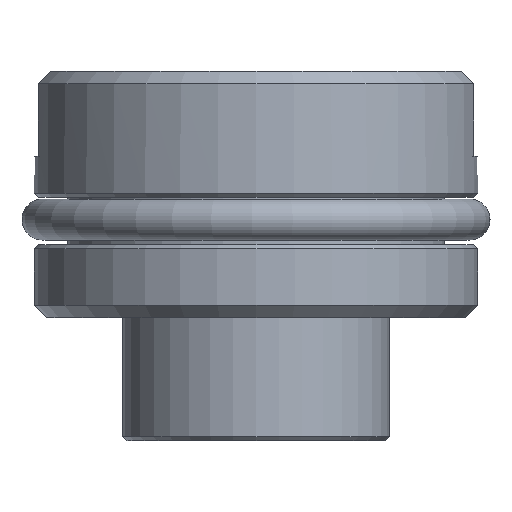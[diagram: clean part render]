
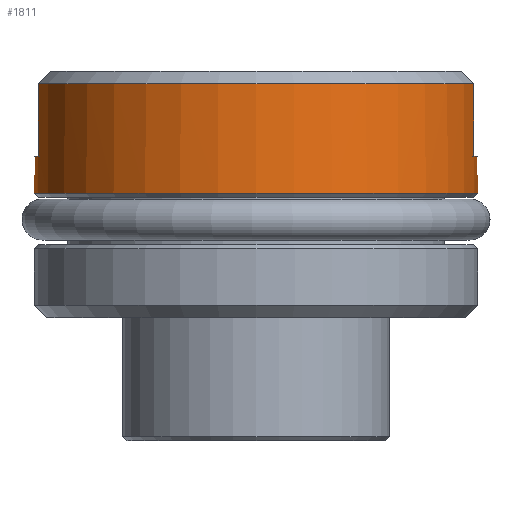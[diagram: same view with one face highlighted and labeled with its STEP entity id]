
A CAD part, left-side view. The second image highlights one B-rep face of the part: STEP entity #1811.
In plain terms, the highlighted cylindrical face has radius 5.4 mm (diameter 10.8 mm), a full revolution.
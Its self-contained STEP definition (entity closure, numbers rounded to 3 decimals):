
#77=CYLINDRICAL_SURFACE('',#1953,5.4);
#97=CIRCLE('',#1947,5.4);
#99=CIRCLE('',#1950,5.4);
#101=CIRCLE('',#1954,5.4);
#102=CIRCLE('',#1955,5.4);
#103=CIRCLE('',#1956,5.4);
#104=CIRCLE('',#1957,5.4);
#227=FACE_OUTER_BOUND('',#335,.T.);
#335=EDGE_LOOP('',(#1153,#1154,#1155,#1156,#1157,#1158,#1159,#1160,#1161,
#1162,#1163,#1164));
#485=LINE('',#2749,#589);
#489=LINE('',#2766,#593);
#493=LINE('',#2783,#597);
#498=LINE('',#2808,#602);
#501=LINE('',#2824,#605);
#589=VECTOR('',#2179,10.);
#593=VECTOR('',#2185,10.);
#597=VECTOR('',#2191,10.);
#602=VECTOR('',#2210,10.);
#605=VECTOR('',#2217,5.4);
#693=VERTEX_POINT('',#2747);
#694=VERTEX_POINT('',#2748);
#699=VERTEX_POINT('',#2764);
#700=VERTEX_POINT('',#2765);
#705=VERTEX_POINT('',#2781);
#706=VERTEX_POINT('',#2782);
#711=VERTEX_POINT('',#2801);
#713=VERTEX_POINT('',#2807);
#717=VERTEX_POINT('',#2821);
#718=VERTEX_POINT('',#2823);
#861=EDGE_CURVE('',#693,#694,#485,.T.);
#867=EDGE_CURVE('',#699,#700,#489,.T.);
#873=EDGE_CURVE('',#705,#706,#493,.T.);
#879=EDGE_CURVE('',#700,#693,#97,.T.);
#881=EDGE_CURVE('',#711,#705,#99,.T.);
#884=EDGE_CURVE('',#713,#711,#498,.T.);
#889=EDGE_CURVE('',#717,#717,#101,.T.);
#890=EDGE_CURVE('',#717,#718,#501,.T.);
#891=EDGE_CURVE('',#713,#718,#102,.T.);
#892=EDGE_CURVE('',#699,#706,#103,.T.);
#893=EDGE_CURVE('',#718,#694,#104,.T.);
#1153=ORIENTED_EDGE('',*,*,#889,.F.);
#1154=ORIENTED_EDGE('',*,*,#890,.T.);
#1155=ORIENTED_EDGE('',*,*,#891,.F.);
#1156=ORIENTED_EDGE('',*,*,#884,.T.);
#1157=ORIENTED_EDGE('',*,*,#881,.T.);
#1158=ORIENTED_EDGE('',*,*,#873,.T.);
#1159=ORIENTED_EDGE('',*,*,#892,.F.);
#1160=ORIENTED_EDGE('',*,*,#867,.T.);
#1161=ORIENTED_EDGE('',*,*,#879,.T.);
#1162=ORIENTED_EDGE('',*,*,#861,.T.);
#1163=ORIENTED_EDGE('',*,*,#893,.F.);
#1164=ORIENTED_EDGE('',*,*,#890,.F.);
#1811=ADVANCED_FACE('',(#227),#77,.T.);
#1947=AXIS2_PLACEMENT_3D('',#2798,#2197,#2198);
#1950=AXIS2_PLACEMENT_3D('',#2802,#2203,#2204);
#1953=AXIS2_PLACEMENT_3D('',#2820,#2213,#2214);
#1954=AXIS2_PLACEMENT_3D('',#2822,#2215,#2216);
#1955=AXIS2_PLACEMENT_3D('',#2825,#2218,#2219);
#1956=AXIS2_PLACEMENT_3D('',#2826,#2220,#2221);
#1957=AXIS2_PLACEMENT_3D('',#2827,#2222,#2223);
#2179=DIRECTION('',(0.,0.,1.));
#2185=DIRECTION('',(0.,0.,-1.));
#2191=DIRECTION('',(0.,0.,1.));
#2197=DIRECTION('center_axis',(0.,0.,-1.));
#2198=DIRECTION('ref_axis',(1.,0.,0.));
#2203=DIRECTION('center_axis',(0.,0.,-1.));
#2204=DIRECTION('ref_axis',(1.,0.,0.));
#2210=DIRECTION('',(0.,0.,-1.));
#2213=DIRECTION('center_axis',(0.,0.,-1.));
#2214=DIRECTION('ref_axis',(1.,0.,0.));
#2215=DIRECTION('center_axis',(0.,0.,-1.));
#2216=DIRECTION('ref_axis',(1.,0.,0.));
#2217=DIRECTION('',(0.,0.,1.));
#2218=DIRECTION('center_axis',(0.,0.,1.));
#2219=DIRECTION('ref_axis',(-1.,0.,0.));
#2220=DIRECTION('center_axis',(0.,0.,1.));
#2221=DIRECTION('ref_axis',(-1.,0.,0.));
#2222=DIRECTION('center_axis',(0.,0.,1.));
#2223=DIRECTION('ref_axis',(-1.,0.,0.));
#2747=CARTESIAN_POINT('',(-1.,-5.307,-2.075));
#2748=CARTESIAN_POINT('',(-1.,-5.307,-0.3));
#2749=CARTESIAN_POINT('',(-1.,-5.307,0.));
#2764=CARTESIAN_POINT('',(1.,-5.307,-0.3));
#2765=CARTESIAN_POINT('',(1.,-5.307,-2.075));
#2766=CARTESIAN_POINT('',(1.,-5.307,0.));
#2781=CARTESIAN_POINT('',(1.,5.307,-2.075));
#2782=CARTESIAN_POINT('',(1.,5.307,-0.3));
#2783=CARTESIAN_POINT('',(1.,5.307,0.));
#2798=CARTESIAN_POINT('Origin',(0.,0.,-2.075));
#2801=CARTESIAN_POINT('',(-1.,5.307,-2.075));
#2802=CARTESIAN_POINT('Origin',(0.,0.,-2.075));
#2807=CARTESIAN_POINT('',(-1.,5.307,-0.3));
#2808=CARTESIAN_POINT('',(-1.,5.307,0.));
#2820=CARTESIAN_POINT('Origin',(0.,0.,0.));
#2821=CARTESIAN_POINT('',(-5.4,0.,-2.975));
#2822=CARTESIAN_POINT('Origin',(0.,0.,-2.975));
#2823=CARTESIAN_POINT('',(-5.4,0.,-0.3));
#2824=CARTESIAN_POINT('',(-5.4,0.,0.));
#2825=CARTESIAN_POINT('Origin',(0.,0.,-0.3));
#2826=CARTESIAN_POINT('Origin',(0.,0.,-0.3));
#2827=CARTESIAN_POINT('Origin',(0.,0.,-0.3));
